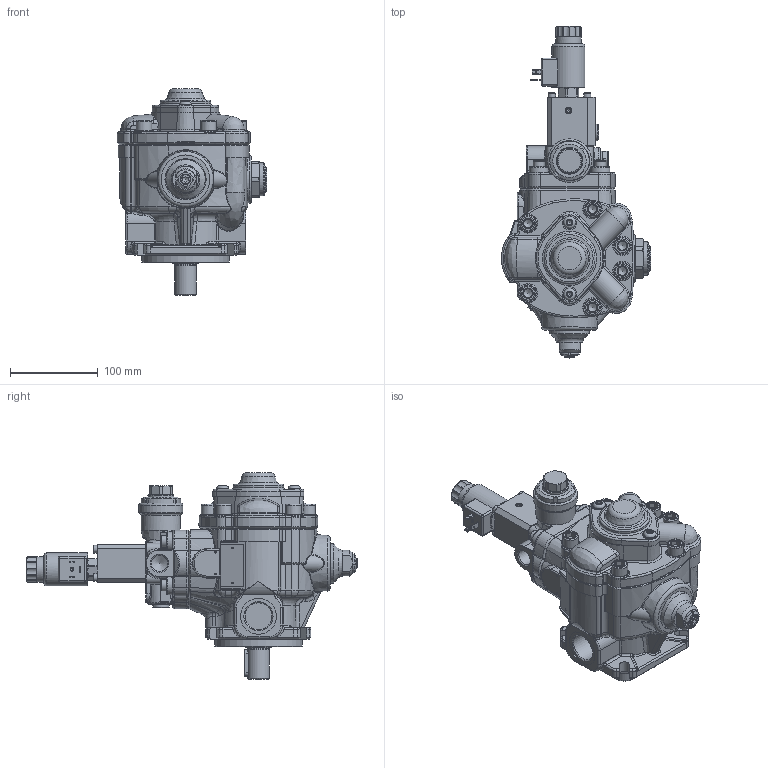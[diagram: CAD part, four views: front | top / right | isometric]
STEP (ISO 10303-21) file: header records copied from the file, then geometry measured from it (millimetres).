
FILE_DESCRIPTION(/* description */ (''),/* implementation_level */ '2;1');
FILE_NAME(/* name */ 'W:\Tecnico\Archivio\Berarma\Dimensioni Pompe\3D Export\Montaggio 3D semplificato\PLP-PHP 1\PHP 1 -A PCS005.stp',/* time_stamp */ '2018-10-09T15:23:24+02:00',/* author */ ('marcop'),/* organization */ (''),/* preprocessor_version */ 'ST-DEVELOPER v17',/* originating_system */ 'Autodesk Inventor 2018',/* authorisation */ '');
FILE_SCHEMA (('AUTOMOTIVE_DESIGN { 1 0 10303 214 3 1 1 }'));
Length unit declared in the file: millimetre
Products named in the file (1): PLP-PHP 1_Shrinkwrap_1
Bounding box: 170.45 x 379.25 x 236 mm (x, y, z)
Volume: 2582395.4 mm3; surface area: 299425.7 mm2
Topology: 2 solids, 2 shells, 2188 faces, 5683 edges, 3554 vertices
Faces by surface type: plane 837, cylinder 538, bspline 362, torus 238, cone 186, sphere 27
Full cylindrical faces by diameter (mm): 1.6 x3, 1.7 x4, 2.5 x3, 3.242 x1, 4.3 x1, 8 x1, 8.5 x4, 10 x1, 12 x2, 13 x4, 14 x3, 15 x1, 15.5 x1, 16.789 x1, 17 x2, 17.805 x1, 17.84 x1, 18 x7, 18.631 x1, 18.999 x2, 19 x4, 19.2 x1, 20 x2, 22 x1, 22.857 x1, 24.5 x2, 25 x2, 28 x1, 28.376 x1, 29.21 x1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
Entity records: 81159 total; most frequent: CARTESIAN_POINT 27955, ORIENTED_EDGE 11264, DIRECTION 10004, EDGE_CURVE 5632, AXIS2_PLACEMENT_3D 3895, VERTEX_POINT 3554, EDGE_LOOP 2315, LINE 2214
